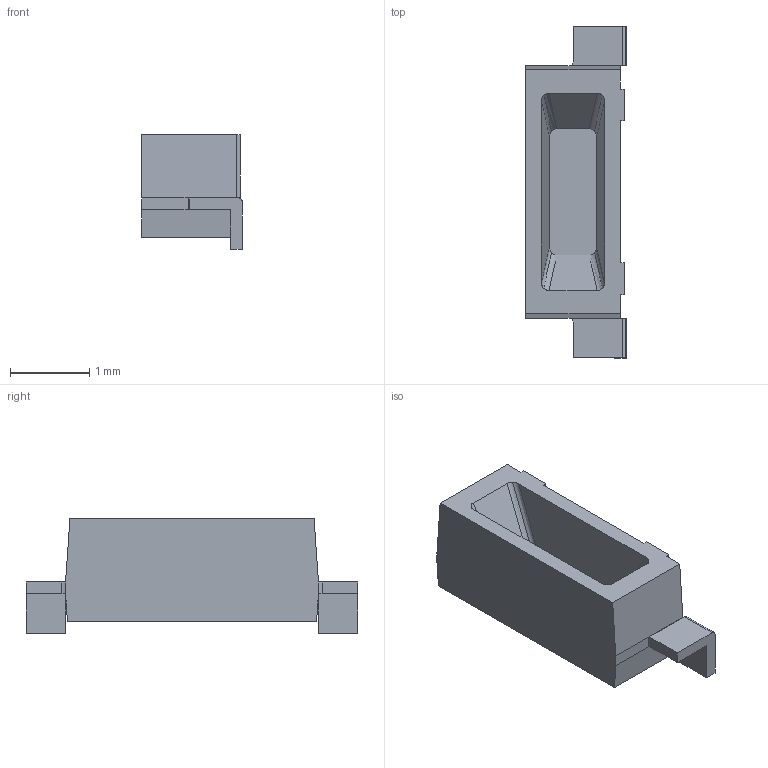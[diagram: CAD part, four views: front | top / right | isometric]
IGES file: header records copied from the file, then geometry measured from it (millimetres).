
Start section: 3D InterOp IGES (Version 20 0 3), Spatial Corp. Copyright (c) 1999-2007.
Global section: file name: DSW-NSG.igs; native system: Spatial Corp.; preprocessor: 3D InterOp ACIS/IGES; author: Noname; organization: Noname; date: 20180329.113002; units: millimetre
Bounding box: 1.27 x 4.2 x 1.45 mm (x, y, z)
Surface area: 26 mm2 (no closed solid volume)
Topology: 0 solids, 0 shells, 56 faces, 288 edges, 288 vertices
Faces by surface type: extrusion 40, revolution 16
